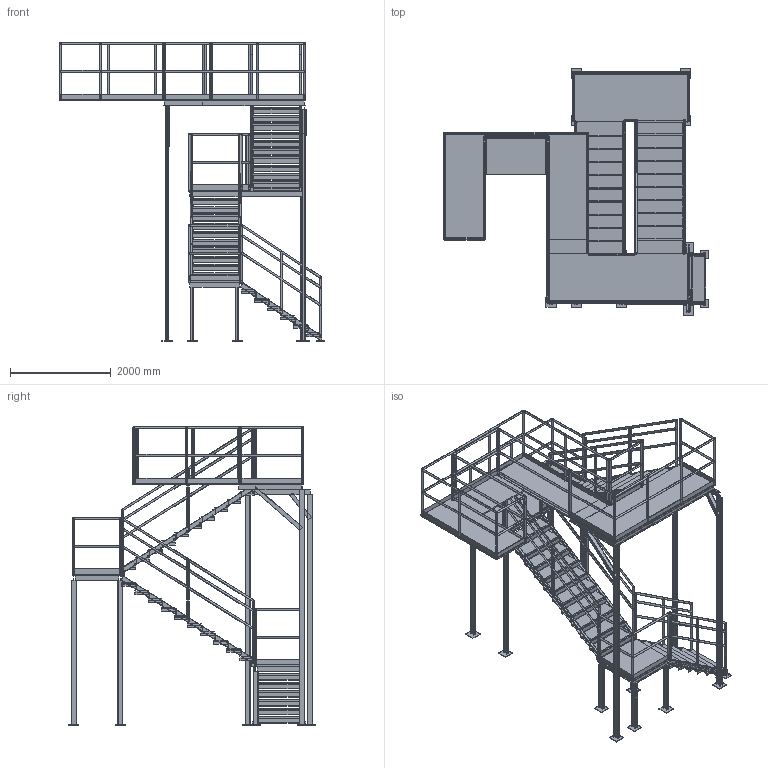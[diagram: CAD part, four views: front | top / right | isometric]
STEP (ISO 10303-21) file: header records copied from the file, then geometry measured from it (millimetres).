
FILE_DESCRIPTION (( 'STEP AP203' ), '1' );
FILE_NAME ('FD02.step', '2026-11-13T19:55:49', ( '' ), ( '' ), 'SwSTEP 2.0', 'SolidWorks 2026', '' );
FILE_SCHEMA (( 'CONFIG_CONTROL_DESIGN' ));
Length unit declared in the file: millimetre
Products named in the file (1): FD02
Bounding box: 5251.2 x 4880 x 5921.2 mm (x, y, z)
Volume: 702830741 mm3; surface area: 124910113.3 mm2
Topology: 288 solids, 288 shells, 2192 faces, 4848 edges, 3232 vertices
Faces by surface type: plane 1756, cylinder 436
Entity records: 59911 total; most frequent: CARTESIAN_POINT 10273, DIRECTION 10106, ORIENTED_EDGE 9696, EDGE_CURVE 4848, LINE 3976, VECTOR 3976, VERTEX_POINT 3232, AXIS2_PLACEMENT_3D 3065
